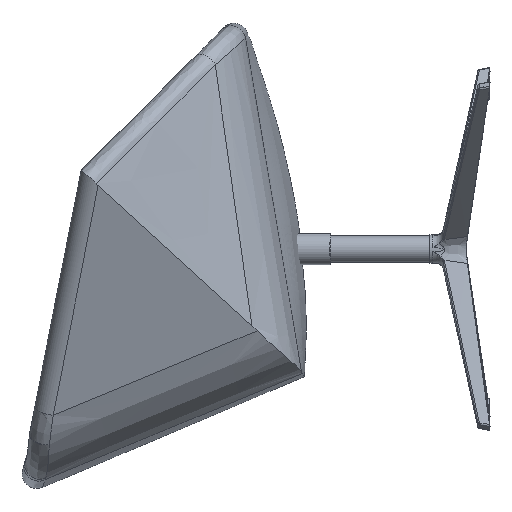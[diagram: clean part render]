
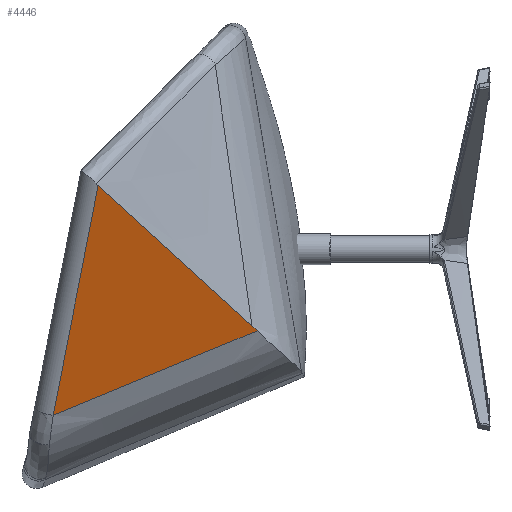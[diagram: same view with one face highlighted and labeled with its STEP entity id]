
A CAD part, left-side view. The second image highlights one B-rep face of the part: STEP entity #4446.
In plain terms, the highlighted planar face has unit normal (-0.893, -0.253, -0.372).
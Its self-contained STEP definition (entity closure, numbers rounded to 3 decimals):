
#2904 = VERTEX_POINT ( 'NONE', #87025 ) ;
#3105 = VERTEX_POINT ( 'NONE', #86981 ) ;
#3678 = ORIENTED_EDGE ( 'NONE', *, *, #17847, .F. ) ;
#4446 = ADVANCED_FACE ( 'NONE', ( #87228 ), #87260, .F. ) ;
#6815 = EDGE_LOOP ( 'NONE', ( #3678, #8762, #8949, #9127 ) ) ;
#8762 = ORIENTED_EDGE ( 'NONE', *, *, #24869, .F. ) ;
#8949 = ORIENTED_EDGE ( 'NONE', *, *, #25135, .T. ) ;
#8997 = EDGE_CURVE ( 'NONE', #3105, #9005, #33798, .T. ) ;
#9005 = VERTEX_POINT ( 'NONE', #33877 ) ;
#9127 = ORIENTED_EDGE ( 'NONE', *, *, #8997, .F. ) ;
#17847 = EDGE_CURVE ( 'NONE', #2904, #3105, #89537, .T. ) ;
#24869 = EDGE_CURVE ( 'NONE', #24925, #2904, #100682, .T. ) ;
#24925 = VERTEX_POINT ( 'NONE', #100854 ) ;
#25135 = EDGE_CURVE ( 'NONE', #24925, #9005, #100952, .T. ) ;
#33781 = DIRECTION ( 'NONE',  ( -0.334, -0.181, 0.925 ) ) ;
#33783 = VECTOR ( 'NONE', #33781, 1000. ) ;
#33797 = CARTESIAN_POINT ( 'NONE',  ( 700.172, 1189.368, -3008.916 ) ) ;
#33798 = LINE ( 'NONE', #33797, #33783 ) ;
#33877 = CARTESIAN_POINT ( 'NONE',  ( -413.355, 584.882, 77.142 ) ) ;
#86981 = CARTESIAN_POINT ( 'NONE',  ( -290.948, 651.331, -262.1 ) ) ;
#87025 = CARTESIAN_POINT ( 'NONE',  ( -257.395, 349.87, -137.253 ) ) ;
#87228 = FACE_OUTER_BOUND ( 'NONE', #6815, .T. ) ;
#87229 = CARTESIAN_POINT ( 'NONE',  ( 0., 3393.961, -2829.728 ) ) ;
#87260 = PLANE ( 'NONE',  #87280 ) ;
#87272 = DIRECTION ( 'NONE',  ( -0.384, 0., 0.923 ) ) ;
#87280 = AXIS2_PLACEMENT_3D ( 'NONE', #87229, #87338, #87272 ) ;
#87338 = DIRECTION ( 'NONE',  ( 0.893, 0.253, 0.372 ) ) ;
#89149 = CARTESIAN_POINT ( 'NONE',  ( -290.948, 651.331, -262.1 ) ) ;
#89150 = CARTESIAN_POINT ( 'NONE',  ( -288.273, 626.294, -251.462 ) ) ;
#89151 = CARTESIAN_POINT ( 'NONE',  ( -285.571, 601.237, -240.877 ) ) ;
#89152 = CARTESIAN_POINT ( 'NONE',  ( -280.098, 551.075, -219.838 ) ) ;
#89153 = CARTESIAN_POINT ( 'NONE',  ( -277.328, 525.971, -209.384 ) ) ;
#89537 = B_SPLINE_CURVE_WITH_KNOTS ( 'NONE', 3,
 ( #89548, #89547, #89544, #89543, #89542, #89153, #89152, #89151, #89150, #89149 ),
 .UNSPECIFIED., .F., .F.,
 ( 4, 2, 2, 2, 4 ),
 ( 0., 0.082, 0.164, 0.246, 0.328 ),
 .UNSPECIFIED. ) ;
#89542 = CARTESIAN_POINT ( 'NONE',  ( -271.723, 475.719, -188.601 ) ) ;
#89543 = CARTESIAN_POINT ( 'NONE',  ( -268.888, 450.57, -178.271 ) ) ;
#89544 = CARTESIAN_POINT ( 'NONE',  ( -263.17, 400.24, -157.705 ) ) ;
#89547 = CARTESIAN_POINT ( 'NONE',  ( -260.288, 375.059, -147.469 ) ) ;
#89548 = CARTESIAN_POINT ( 'NONE',  ( -257.395, 349.87, -137.253 ) ) ;
#100682 = B_SPLINE_CURVE_WITH_KNOTS ( 'NONE', 3,
 ( #100719, #100835, #100833, #100831 ),
 .UNSPECIFIED., .F., .F.,
 ( 4, 4 ),
 ( 0., 0.012 ),
 .UNSPECIFIED. ) ;
#100719 = CARTESIAN_POINT ( 'NONE',  ( -262.709, 357.554, -129.726 ) ) ;
#100831 = CARTESIAN_POINT ( 'NONE',  ( -257.395, 349.87, -137.253 ) ) ;
#100833 = CARTESIAN_POINT ( 'NONE',  ( -259.167, 352.328, -134.671 ) ) ;
#100835 = CARTESIAN_POINT ( 'NONE',  ( -260.939, 354.882, -132.157 ) ) ;
#100854 = CARTESIAN_POINT ( 'NONE',  ( -262.709, 357.554, -129.726 ) ) ;
#100930 = CARTESIAN_POINT ( 'NONE',  ( -413.355, 584.882, 77.142 ) ) ;
#100932 = CARTESIAN_POINT ( 'NONE',  ( -400.801, 565.937, 59.905 ) ) ;
#100934 = CARTESIAN_POINT ( 'NONE',  ( -388.247, 546.994, 42.664 ) ) ;
#100935 = CARTESIAN_POINT ( 'NONE',  ( -363.139, 509.107, 8.185 ) ) ;
#100936 = CARTESIAN_POINT ( 'NONE',  ( -350.586, 490.162, -9.053 ) ) ;
#100937 = CARTESIAN_POINT ( 'NONE',  ( -325.478, 452.273, -43.53 ) ) ;
#100939 = CARTESIAN_POINT ( 'NONE',  ( -312.924, 433.33, -60.77 ) ) ;
#100941 = CARTESIAN_POINT ( 'NONE',  ( -287.817, 395.443, -95.249 ) ) ;
#100943 = CARTESIAN_POINT ( 'NONE',  ( -275.263, 376.498, -112.487 ) ) ;
#100944 = CARTESIAN_POINT ( 'NONE',  ( -262.709, 357.554, -129.726 ) ) ;
#100952 = B_SPLINE_CURVE_WITH_KNOTS ( 'NONE', 3,
 ( #100944, #100943, #100941, #100939, #100937, #100936, #100935, #100934, #100932, #100930 ),
 .UNSPECIFIED., .F., .F.,
 ( 4, 2, 2, 2, 4 ),
 ( 0.107, 0.193, 0.278, 0.364, 0.449 ),
 .UNSPECIFIED. ) ;
